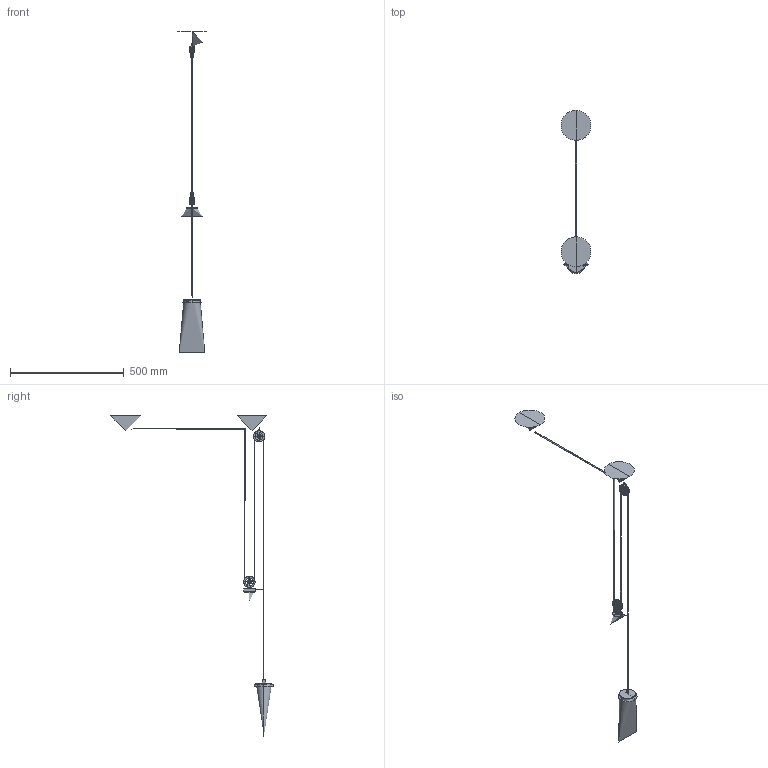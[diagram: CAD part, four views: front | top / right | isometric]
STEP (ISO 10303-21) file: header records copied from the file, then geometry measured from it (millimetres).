
FILE_DESCRIPTION(/* description */ (''),/* implementation_level */ '2;1');
FILE_NAME(/* name */ 'aggregato saliscendi decentrato sferico d25',/* time_stamp */ '2016-05-16T10:30:30+02:00',/* author */ (''),/* organization */ (''),/* preprocessor_version */ 'ST-DEVELOPER v10',/* originating_system */ '',/* authorisation */ '');
FILE_SCHEMA (('CONFIG_CONTROL_DESIGN'));
Length unit declared in the file: millimetre
Products named in the file (5): 1; 2; 3; 4; 5
Assembly tree (4 placements, depth 2):
  1
    2
    3
    4
    5
Bounding box: 131.4 x 715.19 x 1409.57 mm (x, y, z)
Surface area: 422744.4 mm2 (no closed solid volume)
Topology: 0 solids, 132 shells, 150 faces, 592 edges, 580 vertices
Faces by surface type: bspline 78, plane 72
Entity records: 7943 total; most frequent: CARTESIAN_POINT 4665, ORIENTED_EDGE 577, EDGE_CURVE 541, VERTEX_POINT 522, B_SPLINE_CURVE_WITH_KNOTS 180, EDGE_LOOP 162, ADVANCED_FACE 150, FACE_OUTER_BOUND 150
